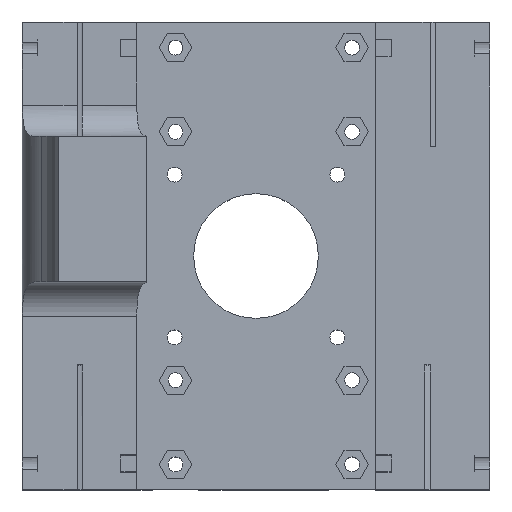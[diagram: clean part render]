
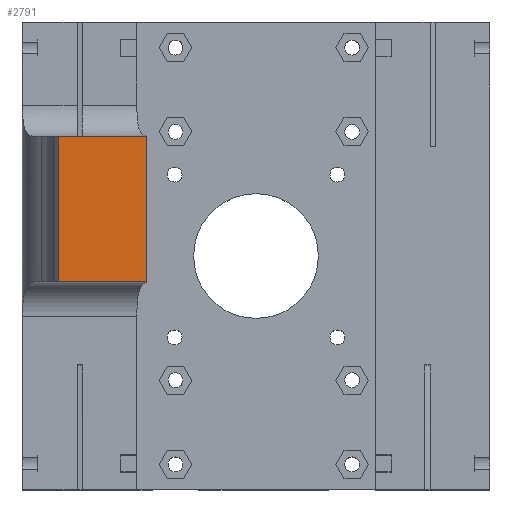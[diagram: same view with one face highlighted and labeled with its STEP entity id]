
A CAD part, top view. The second image highlights one B-rep face of the part: STEP entity #2791.
In plain terms, the highlighted planar face has unit normal (0, 0, 1).
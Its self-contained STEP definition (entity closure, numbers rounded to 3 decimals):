
#45 = PLANE('',#46);
#46 = AXIS2_PLACEMENT_3D('',#47,#48,#49);
#47 = CARTESIAN_POINT('',(-22.921,23.,35.45));
#48 = DIRECTION('',(0.,-1.,0.));
#49 = DIRECTION('',(-1.,0.,0.));
#106 = PLANE('',#107);
#107 = AXIS2_PLACEMENT_3D('',#108,#109,#110);
#108 = CARTESIAN_POINT('',(-47.,-5.,67.45));
#109 = DIRECTION('',(0.,-1.,0.));
#110 = DIRECTION('',(0.,0.,-1.));
#929 = VERTEX_POINT('',#930);
#930 = CARTESIAN_POINT('',(-21.08,23.,59.));
#943 = PLANE('',#944);
#944 = AXIS2_PLACEMENT_3D('',#945,#946,#947);
#945 = CARTESIAN_POINT('',(-21.08,-16.,80.2));
#946 = DIRECTION('',(-1.,0.,0.));
#947 = DIRECTION('',(0.,0.,-1.));
#954 = EDGE_CURVE('',#929,#955,#957,.T.);
#955 = VERTEX_POINT('',#956);
#956 = CARTESIAN_POINT('',(-38.051,23.,59.));
#957 = SURFACE_CURVE('',#958,(#962,#969),.PCURVE_S1.);
#958 = LINE('',#959,#960);
#959 = CARTESIAN_POINT('',(-26.525,23.,59.));
#960 = VECTOR('',#961,1.);
#961 = DIRECTION('',(-1.,0.,0.));
#962 = PCURVE('',#45,#963);
#963 = DEFINITIONAL_REPRESENTATION('',(#964),#968);
#964 = LINE('',#965,#966);
#965 = CARTESIAN_POINT('',(3.604,-23.55));
#966 = VECTOR('',#967,1.);
#967 = DIRECTION('',(1.,0.));
#968 = ( GEOMETRIC_REPRESENTATION_CONTEXT(2) 
PARAMETRIC_REPRESENTATION_CONTEXT() REPRESENTATION_CONTEXT('2D SPACE',''
  ) );
#969 = PCURVE('',#970,#975);
#970 = PLANE('',#971);
#971 = AXIS2_PLACEMENT_3D('',#972,#973,#974);
#972 = CARTESIAN_POINT('',(-38.051,45.,59.));
#973 = DIRECTION('',(0.,0.,1.));
#974 = DIRECTION('',(1.,0.,0.));
#975 = DEFINITIONAL_REPRESENTATION('',(#976),#979);
#976 = B_SPLINE_CURVE_WITH_KNOTS('',1,(#977,#978),.UNSPECIFIED.,.F.,.F.,
  (2,2),(-7.475,11.525),.PIECEWISE_BEZIER_KNOTS.);
#977 = CARTESIAN_POINT('',(19.,-22.));
#978 = CARTESIAN_POINT('',(0.,-22.));
#979 = ( GEOMETRIC_REPRESENTATION_CONTEXT(2) 
PARAMETRIC_REPRESENTATION_CONTEXT() REPRESENTATION_CONTEXT('2D SPACE',''
  ) );
#997 = PLANE('',#998);
#998 = AXIS2_PLACEMENT_3D('',#999,#1000,#1001);
#999 = CARTESIAN_POINT('',(-38.051,45.,51.009));
#1000 = DIRECTION('',(-1.,0.,0.));
#1001 = DIRECTION('',(0.,0.,1.));
#1419 = VERTEX_POINT('',#1420);
#1420 = CARTESIAN_POINT('',(-21.08,-5.,59.));
#1439 = EDGE_CURVE('',#1440,#1419,#1442,.T.);
#1440 = VERTEX_POINT('',#1441);
#1441 = CARTESIAN_POINT('',(-38.051,-5.,59.));
#1442 = SURFACE_CURVE('',#1443,(#1447,#1453),.PCURVE_S1.);
#1443 = LINE('',#1444,#1445);
#1444 = CARTESIAN_POINT('',(-42.525,-5.,59.));
#1445 = VECTOR('',#1446,1.);
#1446 = DIRECTION('',(1.,0.,0.));
#1447 = PCURVE('',#106,#1448);
#1448 = DEFINITIONAL_REPRESENTATION('',(#1449),#1452);
#1449 = B_SPLINE_CURVE_WITH_KNOTS('',1,(#1450,#1451),.UNSPECIFIED.,.F.,
  .F.,(2,2),(4.475,23.475),.PIECEWISE_BEZIER_KNOTS.);
#1450 = CARTESIAN_POINT('',(8.45,8.949));
#1451 = CARTESIAN_POINT('',(8.45,27.949));
#1452 = ( GEOMETRIC_REPRESENTATION_CONTEXT(2) 
PARAMETRIC_REPRESENTATION_CONTEXT() REPRESENTATION_CONTEXT('2D SPACE',''
  ) );
#1453 = PCURVE('',#970,#1454);
#1454 = DEFINITIONAL_REPRESENTATION('',(#1455),#1458);
#1455 = B_SPLINE_CURVE_WITH_KNOTS('',1,(#1456,#1457),.UNSPECIFIED.,.F.,
  .F.,(2,2),(4.475,23.475),.PIECEWISE_BEZIER_KNOTS.);
#1456 = CARTESIAN_POINT('',(0.,-50.));
#1457 = CARTESIAN_POINT('',(19.,-50.));
#1458 = ( GEOMETRIC_REPRESENTATION_CONTEXT(2) 
PARAMETRIC_REPRESENTATION_CONTEXT() REPRESENTATION_CONTEXT('2D SPACE',''
  ) );
#2768 = EDGE_CURVE('',#955,#1440,#2769,.T.);
#2769 = SURFACE_CURVE('',#2770,(#2774,#2781),.PCURVE_S1.);
#2770 = LINE('',#2771,#2772);
#2771 = CARTESIAN_POINT('',(-38.051,45.,59.));
#2772 = VECTOR('',#2773,1.);
#2773 = DIRECTION('',(0.,-1.,0.));
#2774 = PCURVE('',#997,#2775);
#2775 = DEFINITIONAL_REPRESENTATION('',(#2776),#2780);
#2776 = LINE('',#2777,#2778);
#2777 = CARTESIAN_POINT('',(7.991,0.));
#2778 = VECTOR('',#2779,1.);
#2779 = DIRECTION('',(0.,-1.));
#2780 = ( GEOMETRIC_REPRESENTATION_CONTEXT(2) 
PARAMETRIC_REPRESENTATION_CONTEXT() REPRESENTATION_CONTEXT('2D SPACE',''
  ) );
#2781 = PCURVE('',#970,#2782);
#2782 = DEFINITIONAL_REPRESENTATION('',(#2783),#2787);
#2783 = LINE('',#2784,#2785);
#2784 = CARTESIAN_POINT('',(0.,0.));
#2785 = VECTOR('',#2786,1.);
#2786 = DIRECTION('',(0.,-1.));
#2787 = ( GEOMETRIC_REPRESENTATION_CONTEXT(2) 
PARAMETRIC_REPRESENTATION_CONTEXT() REPRESENTATION_CONTEXT('2D SPACE',''
  ) );
#2791 = ADVANCED_FACE('',(#2792),#970,.T.);
#2792 = FACE_BOUND('',#2793,.T.);
#2793 = EDGE_LOOP('',(#2794,#2813,#2814,#2815));
#2794 = ORIENTED_EDGE('',*,*,#2795,.F.);
#2795 = EDGE_CURVE('',#929,#1419,#2796,.T.);
#2796 = SURFACE_CURVE('',#2797,(#2801,#2807),.PCURVE_S1.);
#2797 = LINE('',#2798,#2799);
#2798 = CARTESIAN_POINT('',(-21.08,14.5,59.));
#2799 = VECTOR('',#2800,1.);
#2800 = DIRECTION('',(0.,-1.,0.));
#2801 = PCURVE('',#970,#2802);
#2802 = DEFINITIONAL_REPRESENTATION('',(#2803),#2806);
#2803 = B_SPLINE_CURVE_WITH_KNOTS('',1,(#2804,#2805),.UNSPECIFIED.,.F.,
  .F.,(2,2),(-8.5,19.5),.PIECEWISE_BEZIER_KNOTS.);
#2804 = CARTESIAN_POINT('',(16.971,-22.));
#2805 = CARTESIAN_POINT('',(16.971,-50.));
#2806 = ( GEOMETRIC_REPRESENTATION_CONTEXT(2) 
PARAMETRIC_REPRESENTATION_CONTEXT() REPRESENTATION_CONTEXT('2D SPACE',''
  ) );
#2807 = PCURVE('',#943,#2808);
#2808 = DEFINITIONAL_REPRESENTATION('',(#2809),#2812);
#2809 = B_SPLINE_CURVE_WITH_KNOTS('',1,(#2810,#2811),.UNSPECIFIED.,.F.,
  .F.,(2,2),(-8.5,19.5),.PIECEWISE_BEZIER_KNOTS.);
#2810 = CARTESIAN_POINT('',(21.2,-39.));
#2811 = CARTESIAN_POINT('',(21.2,-11.));
#2812 = ( GEOMETRIC_REPRESENTATION_CONTEXT(2) 
PARAMETRIC_REPRESENTATION_CONTEXT() REPRESENTATION_CONTEXT('2D SPACE',''
  ) );
#2813 = ORIENTED_EDGE('',*,*,#954,.T.);
#2814 = ORIENTED_EDGE('',*,*,#2768,.T.);
#2815 = ORIENTED_EDGE('',*,*,#1439,.T.);
